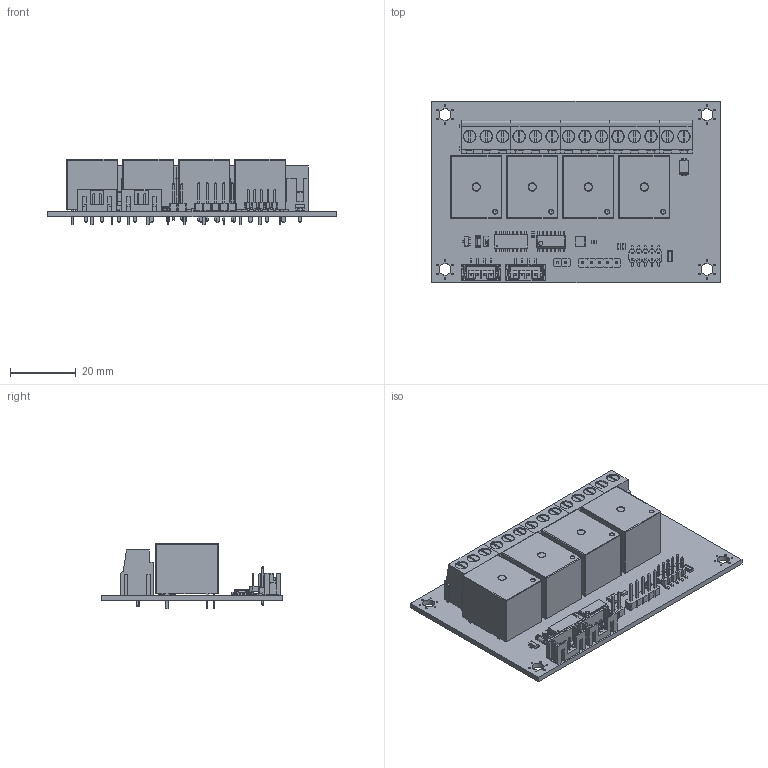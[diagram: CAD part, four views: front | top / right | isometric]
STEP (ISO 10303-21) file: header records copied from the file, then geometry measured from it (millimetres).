
FILE_DESCRIPTION(('Open CASCADE Model'),'2;1');
FILE_NAME('Open CASCADE Shape Model','2025-11-26T14:37:05',('Author'),( 'Open CASCADE'),'Open CASCADE STEP processor 6.8','Open CASCADE 6.8' ,'Unknown');
FILE_SCHEMA(('AUTOMOTIVE_DESIGN { 1 0 10303 214 1 1 1 1 }'));
Length unit declared in the file: millimetre
Products named in the file (59): PCB; Board; R1; YC164-JR-1310KL; Resistor_Array_YC_AF_xxx_YC164-FR-07180KL; U3; PCA9554CBS; U2; SO-16_STM; U1; soic-14; M14A_ASM_33_ASM; BODY_M14A_20; LEAD_M14A_46; R3; MCR03; R2; Q1; FDN306P; K4; HRS4; K3; K2; K1; J7; CH71102M100-0P; 12P_10; SMT_PIN-PC; J5; 126104ST; BODY; PIN; NAIL; J4; EK500V-4X3P_2P_ASM3; EK500V-03P; EK500V-02P; EK500V-03P001; EK500V-03P002; EK500V-03P003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
Assembly tree (91 placements, depth 5):
  PCB
    Board
    R1
      YC164-JR-1310KL
        Resistor_Array_YC_AF_xxx_YC164-FR-07180KL
    U3
      PCA9554CBS
    U2
      SO-16_STM
    U1
      soic-14
        M14A_ASM_33_ASM
          BODY_M14A_20
          LEAD_M14A_46  x14
    R3
      MCR03
    R2
      MCR03
    Q1
      FDN306P
    K4
      HRS4
    K3
      HRS4
    K2
      HRS4
    K1
      HRS4
    J7
      CH71102M100-0P
        12P_10
        SMT_PIN-PC  x10
    J5
      126104ST
        BODY
        PIN  x4
        NAIL  x2
    J4
      EK500V-4X3P_2P_ASM3
        EK500V-03P
        EK500V-02P
        EK500V-03P001
        EK500V-03P002
        EK500V-03P003
    J3
      5-Pin_Header_-_Male_-_2.54mm
        5-Pin_Header_-_Male_-_2.54mm
    J2
      126104ST
        BODY
        PIN  x4
        NAIL  x2
    J1
      2x_Male_Pin_2.54_mm
        1_Male_Pin_2.54_mm  x2
    D2
      SMA
      SMA
      SMA
      SMA
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Bounding box: 87.5 x 55 x 19.8 mm (x, y, z)
Volume: 33865 mm3; surface area: 26126.1 mm2
Topology: 118 solids, 118 shells, 3700 faces, 9437 edges, 5998 vertices
Faces by surface type: plane 2760, cylinder 788, sphere 70, torus 68, bspline 14
Full cylindrical faces by diameter (mm): 0.201 x1, 0.5 x24, 1.02 x7, 1.15 x20, 1.5 x14, 3.6 x4
Entity records: 85006 total; most frequent: CARTESIAN_POINT 13943, ORIENTED_EDGE 12414, DIRECTION 12304, EDGE_CURVE 6207, LINE 5078, VECTOR 5078, VERTEX_POINT 3964, AXIS2_PLACEMENT_3D 3613
